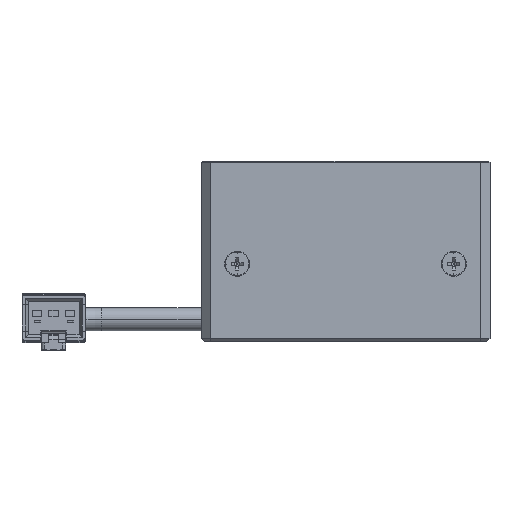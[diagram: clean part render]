
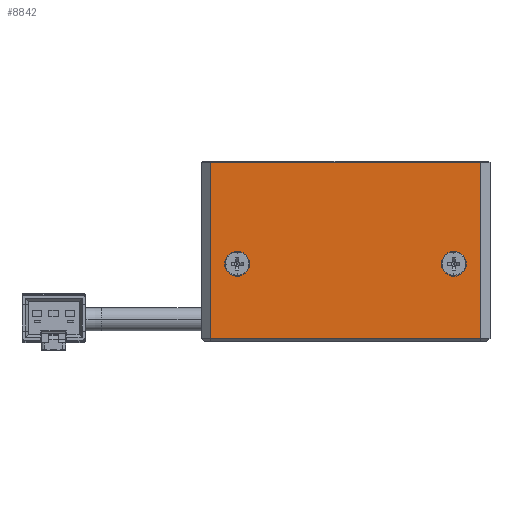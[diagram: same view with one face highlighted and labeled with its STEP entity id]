
A CAD part, front view. The second image highlights one B-rep face of the part: STEP entity #8842.
In plain terms, the highlighted planar face has unit normal (0, -1, 0) as drawn and (1, 0, 0) by its records, which use the part's own axes.
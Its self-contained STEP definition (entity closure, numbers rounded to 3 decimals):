
#7329=CARTESIAN_POINT('',(24.,17.,18.));
#7330=DIRECTION('',(1.,0.,0.));
#7331=DIRECTION('',(0.,-1.,0.));
#7332=AXIS2_PLACEMENT_3D('',#7329,#7330,#7331);
#7334=CARTESIAN_POINT('',(24.,17.,18.));
#7335=DIRECTION('',(1.,0.,0.));
#7336=DIRECTION('',(0.,1.,0.));
#7337=AXIS2_PLACEMENT_3D('',#7334,#7335,#7336);
#7339=CARTESIAN_POINT('',(24.,17.,-18.));
#7340=DIRECTION('',(-1.,0.,0.));
#7341=DIRECTION('',(0.,-1.,0.));
#7342=AXIS2_PLACEMENT_3D('',#7339,#7340,#7341);
#7344=CARTESIAN_POINT('',(24.,17.,-18.));
#7345=DIRECTION('',(-1.,0.,0.));
#7346=DIRECTION('',(0.,1.,0.));
#7347=AXIS2_PLACEMENT_3D('',#7344,#7345,#7346);
#7349=DIRECTION('',(0.,0.,1.));
#7350=VECTOR('',#7349,45.);
#7351=CARTESIAN_POINT('',(24.,0.2,-22.5));
#7352=LINE('',#7351,#7350);
#7353=DIRECTION('',(0.,-1.,0.));
#7354=VECTOR('',#7353,29.3);
#7355=CARTESIAN_POINT('',(24.,29.5,22.5));
#7356=LINE('',#7355,#7354);
#7357=DIRECTION('',(0.,0.,-1.));
#7358=VECTOR('',#7357,45.);
#7359=CARTESIAN_POINT('',(24.,29.5,22.5));
#7360=LINE('',#7359,#7358);
#7361=DIRECTION('',(0.,-1.,0.));
#7362=VECTOR('',#7361,29.3);
#7363=CARTESIAN_POINT('',(24.,29.5,-22.5));
#7364=LINE('',#7363,#7362);
#8489=CARTESIAN_POINT('',(24.,15.,18.));
#8490=VERTEX_POINT('',#8489);
#8493=CARTESIAN_POINT('',(24.,19.,18.));
#8494=VERTEX_POINT('',#8493);
#8501=CARTESIAN_POINT('',(24.,15.,-18.));
#8502=VERTEX_POINT('',#8501);
#8505=CARTESIAN_POINT('',(24.,19.,-18.));
#8506=VERTEX_POINT('',#8505);
#8540=CARTESIAN_POINT('',(24.,29.5,22.5));
#8542=VERTEX_POINT('',#8540);
#8547=CARTESIAN_POINT('',(24.,29.5,-22.5));
#8548=VERTEX_POINT('',#8547);
#8571=CARTESIAN_POINT('',(24.,0.2,-22.5));
#8572=CARTESIAN_POINT('',(24.,0.2,22.5));
#8573=VERTEX_POINT('',#8571);
#8574=VERTEX_POINT('',#8572);
#8816=CARTESIAN_POINT('',(24.,0.,24.));
#8817=DIRECTION('',(1.,0.,0.));
#8818=DIRECTION('',(0.,0.,-1.));
#8819=AXIS2_PLACEMENT_3D('',#8816,#8817,#8818);
#8820=PLANE('',#8819);
#8821=ORIENTED_EDGE('',*,*,#8806,.T.);
#8823=ORIENTED_EDGE('',*,*,#8822,.F.);
#8825=ORIENTED_EDGE('',*,*,#8824,.T.);
#8827=ORIENTED_EDGE('',*,*,#8826,.T.);
#8828=EDGE_LOOP('',(#8821,#8823,#8825,#8827));
#8829=FACE_OUTER_BOUND('',#8828,.F.);
#8831=ORIENTED_EDGE('',*,*,#8830,.F.);
#8833=ORIENTED_EDGE('',*,*,#8832,.F.);
#8834=EDGE_LOOP('',(#8831,#8833));
#8835=FACE_BOUND('',#8834,.F.);
#8837=ORIENTED_EDGE('',*,*,#8836,.T.);
#8839=ORIENTED_EDGE('',*,*,#8838,.T.);
#8840=EDGE_LOOP('',(#8837,#8839));
#8841=FACE_BOUND('',#8840,.F.);
#8842=ADVANCED_FACE('',(#8829,#8835,#8841),#8820,.T.);
#7333=CIRCLE('',#7332,2.);
#7338=CIRCLE('',#7337,2.);
#7343=CIRCLE('',#7342,2.);
#7348=CIRCLE('',#7347,2.);
#8806=EDGE_CURVE('',#8573,#8574,#7352,.T.);
#8822=EDGE_CURVE('',#8542,#8574,#7356,.T.);
#8824=EDGE_CURVE('',#8542,#8548,#7360,.T.);
#8826=EDGE_CURVE('',#8548,#8573,#7364,.T.);
#8830=EDGE_CURVE('',#8502,#8506,#7343,.T.);
#8832=EDGE_CURVE('',#8506,#8502,#7348,.T.);
#8836=EDGE_CURVE('',#8490,#8494,#7333,.T.);
#8838=EDGE_CURVE('',#8494,#8490,#7338,.T.);
